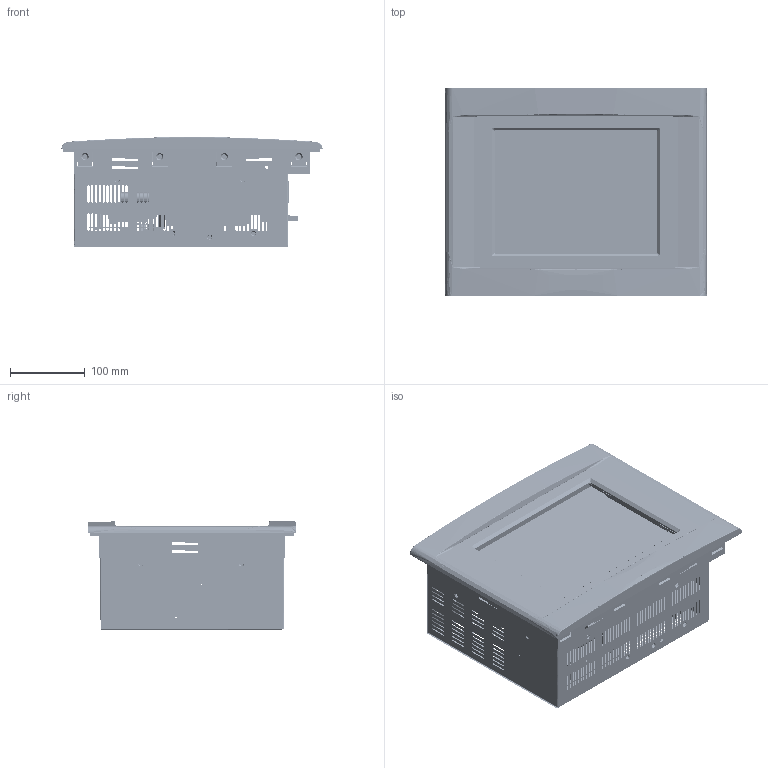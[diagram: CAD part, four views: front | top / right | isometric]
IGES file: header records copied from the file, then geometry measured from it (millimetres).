
Start section:  PTC IGES file: day_10_base.igs
Global section: file name: day_10_base.igs; native system: Pro/ENGINEER by Parametric Technology Corporation; preprocessor: 2000100; author: srollman; organization: Unknown; date: 050106.160647; units: inch
Bounding box: 350.01 x 279.4 x 147.06 mm (x, y, z)
Surface area: 1119508.9 mm2 (no closed solid volume)
Topology: 0 solids, 0 shells, 817 faces, 10799 edges, 10796 vertices
Faces by surface type: bspline 661, revolution 156
